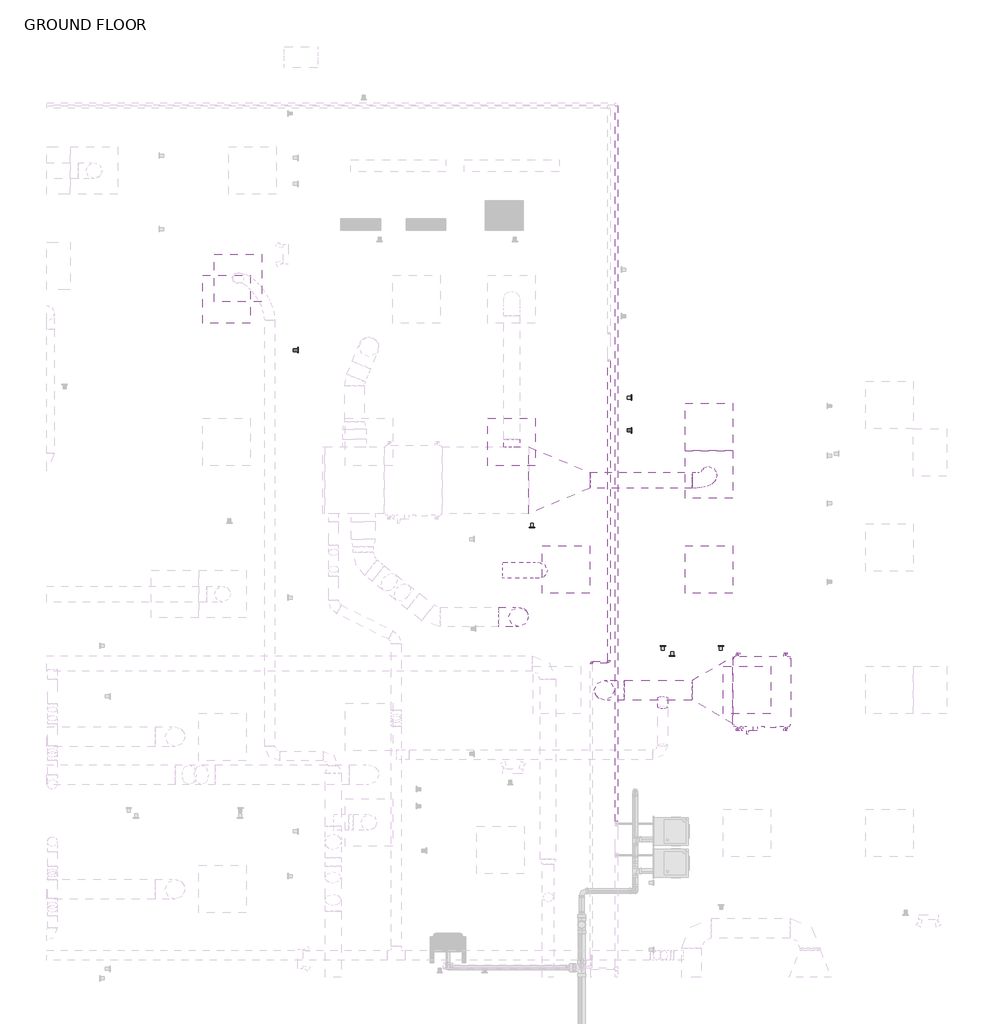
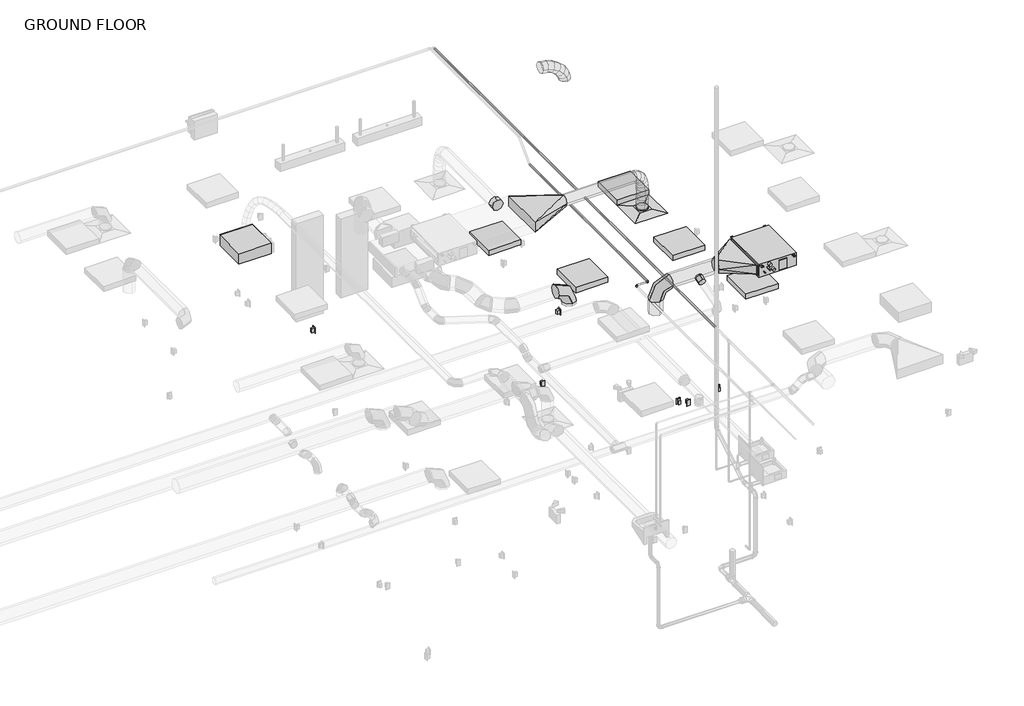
# One storey, part 20 of 22: 6 duct fittings, 6 duct segments, 6 light fixtures, 5 proxies, 3 pipe segments, 2 air terminals, 2 pipe fittings, 2 switching devices, 1 electric appliance.
"""IFC4 building model written with IfcOpenShell, lengths in millimetres."""

from ifc_helpers import new_model, si_unit, point, frame, frame_2d, origin, place, context, project, spatial, circle_curve, ellipse_curve, trimmed, segment, composite_curve, outline, extrude, transform, mapped, element, save
from ifc_brep_helpers import plane_surface, cylinder_surface, advanced_brep
from components import air_terminal_52af7c74, air_terminal_e9020785, mechanical_equipment_7e022f85, duplex_receptacle_countertop_10251bba, rectangular_to_round_transition_angle_45_degree_09297cf0, rectangular_to_round_transition_angle_60_degree_68074483, round_elbow_1_d_6fec3262, round_takeoff_standard_c8132586, round_takeoff_standard_1127d77f, telephone_outlet_data_plain_18c24199, troffer_corner_insert_2x2_3_lamp_emergency_29e3a813, troffer_corner_insert_2x2_3lamp_e67c7f8f, elbow_generic_standard_c06ac706

model = new_model("IFC4")

# Units and contexts
model_context = context("Model", 3, world=origin())
ifc_project = project(units=[si_unit("LENGTHUNIT", "METRE", prefix="MILLI")], contexts=[model_context])

# Site, building, storey
site = spatial("IfcSite", under=ifc_project)
building = spatial("IfcBuilding", under=site)
storey = spatial("IfcBuildingStorey", under=building, Name="GROUND FLOOR", Elevation=30480.0)

# Air terminals
placement = place(None, origin())
air_terminal_shape = air_terminal_52af7c74(model_context)
element("IfcAirTerminal", 1, ObjectType="Supply Diffuser - Rectangular Face Round Neck - Hosted : 24\"x24\" Face 6\" Neck - Hosted", at=placement, inside=storey, context=model_context, shape_type="MappedRepresentation", body=[
    mapped(air_terminal_shape, transform((8532.1795393, 5435.0070005, 33223.2), x_axis=(0.0, -1.0, 0.0), y_axis=(-1.0, 0.0, 0.0), z_axis=(0.0, 0.0, -1.0))),
])
air_terminal_2_shape = air_terminal_e9020785(model_context)
element("IfcAirTerminal", 2, ObjectType="Supply Diffuser - Rectangular Face Round Neck - Hosted : 24\"x24\" Face 8\" Neck - Hosted", at=placement, inside=storey, context=model_context, shape_type="MappedRepresentation", body=[
    mapped(air_terminal_2_shape, transform((14567.8545393, 2918.8195005, 33223.2), x_axis=(0.0, -1.0, 0.0), y_axis=(-1.0, 0.0, 0.0), z_axis=(0.0, 0.0, -1.0))),
])

# Proxies
mechanical_equipment_shape = mechanical_equipment_7e022f85(model_context)
element("IfcBuildingElementProxy", 3, Name="PEFY-P-NMAU-E_Medium_Static_Ducted : PEFY-P18NMAU-E", ObjectType="PEFY-P-NMAU-E_Medium_Static_Ducted : PEFY-P18NMAU-E", at=placement, inside=storey, context=model_context, shape_type="MappedRepresentation", body=[
    mapped(mechanical_equipment_shape, transform((15192.6616523, 124.3322576, 33686.75), x_axis=(0.0, -1.0, 0.0), y_axis=(1.0, 0.0, 0.0), z_axis=(0.0, 0.0, 1.0))),
])
duplex_receptacle_countertop_shape = duplex_receptacle_countertop_10251bba(model_context)
element("IfcBuildingElementProxy", 4, Name="Duplex Receptacle : Standard", ObjectType="Duplex Receptacle : Standard", at=placement, inside=storey, context=model_context, shape_type="MappedRepresentation", body=[
    mapped(duplex_receptacle_countertop_shape, transform((12301.5341357, 2239.3695005, 30937.2), x_axis=(1.0, 0.0, 0.0), y_axis=(0.0, 0.0, 1.0), z_axis=(0.0, -1.0, 0.0))),
])
element("IfcBuildingElementProxy", 5, Name="Duplex Receptacle : Standard", ObjectType="Duplex Receptacle : Standard", at=placement, inside=storey, context=model_context, shape_type="MappedRepresentation", body=[
    mapped(duplex_receptacle_countertop_shape, transform((14723.7149264, 715.3695005, 30937.2), x_axis=(-1.0, 0.0, 0.0), y_axis=(0.0, 0.0, 1.0), z_axis=(0.0, 1.0, 0.0))),
])
element("IfcBuildingElementProxy", 6, Name="Duplex Receptacle : Standard", ObjectType="Duplex Receptacle : Standard", at=placement, inside=storey, context=model_context, shape_type="MappedRepresentation", body=[
    mapped(duplex_receptacle_countertop_shape, transform((13574.0795393, 3902.2763697, 30937.2), x_axis=(0.0, 1.0, 0.0), y_axis=(0.0, 0.0, 1.0), z_axis=(1.0, 0.0, 0.0))),
])
element("IfcBuildingElementProxy", 7, Name="Duplex Receptacle : Standard", ObjectType="Duplex Receptacle : Standard", at=placement, inside=storey, context=model_context, shape_type="MappedRepresentation", body=[
    mapped(duplex_receptacle_countertop_shape, transform((14097.4622755, 591.5445005, 30937.2), x_axis=(1.0, 0.0, 0.0), y_axis=(0.0, 0.0, 1.0), z_axis=(0.0, -1.0, 0.0))),
])

# Duct fittings
rectangular_to_round_transition_angle_45_degree_shape = rectangular_to_round_transition_angle_45_degree_09297cf0(model_context)
element("IfcDuctFitting", 8, ObjectType="Rectangular to Round Transition - Angle : 45 Degree", at=placement, inside=storey, context=model_context, shape_type="MappedRepresentation", body=[
    mapped(rectangular_to_round_transition_angle_45_degree_shape, transform((12257.9936831, 2841.896647, 33978.85), x_axis=(1.0, 0.0, 0.0), y_axis=(0.0, 1.0, 0.0), z_axis=(0.0, 0.0, 1.0))),
])
rectangular_to_round_transition_angle_60_degree_shape = rectangular_to_round_transition_angle_60_degree_68074483(model_context)
element("IfcDuctFitting", 9, ObjectType="Rectangular to Round Transition - Angle : 60 Degree", at=placement, inside=storey, context=model_context, shape_type="MappedRepresentation", body=[
    mapped(rectangular_to_round_transition_angle_60_degree_shape, transform((14875.1616523, 151.8070005, 33846.29375), x_axis=(-1.0, 0.0, 0.0), y_axis=(0.0, -1.0, 0.0), z_axis=(0.0, 0.0, 1.0))),
])
round_elbow_1_d_shape = round_elbow_1_d_6fec3262(model_context)
element("IfcDuctFitting", 10, ObjectType="Round Elbow : 1 D", at=placement, inside=storey, context=model_context, shape_type="MappedRepresentation", body=[
    mapped(round_elbow_1_d_shape, transform((13229.5920393, 151.8070005, 33846.29375), x_axis=(0.0, 0.0, 1.0), y_axis=(1.0, 0.0, 0.0), z_axis=(0.0, 1.0, 0.0))),
])
element("IfcDuctFitting", 11, ObjectType="Round Elbow : 1 D", at=placement, inside=storey, context=model_context, shape_type="MappedRepresentation", body=[
    mapped(round_elbow_1_d_shape, transform((12129.4545393, 1090.0195005, 33629.6), x_axis=(0.0, 0.0, 1.0), y_axis=(-1.0, 0.0, 0.0), z_axis=(0.0, -1.0, 0.0))),
])
round_takeoff_standard_shape = round_takeoff_standard_c8132586(model_context)
element("IfcDuctFitting", 12, ObjectType="Round Takeoff : Standard", at=placement, inside=storey, context=model_context, shape_type="MappedRepresentation", body=[
    mapped(round_takeoff_standard_shape, transform((13976.8577502, 28.8487351, 33814.5090845), x_axis=(0.0, -0.9574860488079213, -0.28847957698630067), y_axis=(-1.0, 0.0, 0.0), z_axis=(0.0, 0.28847957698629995, -0.9574860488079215))),
])
round_takeoff_standard_2_shape = round_takeoff_standard_1127d77f(model_context)
element("IfcDuctFitting", 13, ObjectType="Round Takeoff : Standard", at=placement, inside=storey, context=model_context, shape_type="MappedRepresentation", body=[
    mapped(round_takeoff_standard_2_shape, transform((12040.5545393, 3269.727897, 33978.85), x_axis=(0.0, 1.0, 0.0), y_axis=(1.0, 0.0, 0.0), z_axis=(0.0, 0.0, -1.0))),
])

# Duct segments
element("IfcDuctSegment", 14, ObjectType="Flex - Round", at=placement, inside=storey, context=model_context, shape_type="AdvancedBrep", body=[
    advanced_brep(
    [(14669.4545393, 2918.8195005, 33277.175), (14567.8545393, 2817.2195005, 33277.175), (14466.2545393, 2918.8195005, 33277.175), (14567.8545393, 3020.4195005, 33277.175), (14669.4545393, 2918.8195005, 33279.8547075), (14567.8545393, 2817.2195005, 33278.7618832), (14466.2545393, 2918.8195005, 33280.7980181), (14567.8545393, 3020.4195005, 33281.8908423), (14670.2466059, 2916.1922176, 33365.1427836), (14568.616162, 2814.6931997, 33360.7718304), (14467.0530424, 2916.1708676, 33366.7791677), (14568.6834863, 3017.6698854, 33371.1501209), (14670.9315956, 2909.0188694, 33465.4647279), (14569.2677947, 2807.8691727, 33456.2083879), (14467.7182424, 2909.2047612, 33464.2027585), (14569.3820433, 3010.3544579, 33473.4590985), (14668.8447102, 2898.3986023, 33572.8340621), (14567.3020822, 2797.8655607, 33557.3434305), (14465.7826584, 2899.3544747, 33563.787703), (14567.3252863, 2999.8875163, 33579.2783346), (14661.1005042, 2885.461278, 33682.2201979), (14560.1562908, 2785.9279366, 33658.2770193), (14458.9994567, 2888.0225859, 33659.5997492), (14559.94367, 2987.5559274, 33683.5429279), (14644.2995966, 2871.2387095, 33789.4249914), (14545.2626132, 2773.3199064, 33753.3119824), (14445.6357391, 2876.7097216, 33744.8722008), (14544.6727225, 2974.6285247, 33780.9852098), (14613.5644873, 2856.5939705, 33891.2786024), (14520.0395911, 2761.30158, 33836.8989925), (14425.4367268, 2867.0852475, 33811.8100579), (14518.961623, 2962.377638, 33866.1896679), (14560.3234804, 2842.4095473, 33984.2272659), (14481.828247, 2751.1213466, 33903.6087256), (14401.8418364, 2860.7991171, 33853.0022452), (14480.3370698, 2952.0873178, 33933.6207855), (14477.0345462, 2831.492141, 34052.57981), (14427.8368128, 2744.0442188, 33947.9177556), (14377.2608184, 2857.5770689, 33873.1750944), (14426.4585518, 2945.024991, 33977.8371488), (14393.1398295, 2827.0688797, 34079.362175), (14377.3901647, 2741.384472, 33964.0222327), (14361.0887655, 2856.7244143, 33878.337825), (14376.8384304, 2942.4088219, 33993.6777673), (14355.1295393, 2827.0688797, 34079.362175), (14355.1295393, 2942.4088219, 33993.6777673), (14355.1295393, 2856.7244143, 33878.337825), (14355.1295393, 2741.384472, 33964.0222327)],
    [
        (0, 1, circle_curve(frame((14567.8545393, 2918.8195005, 33277.175), z_axis=(0.0, 0.0, -1.0), x_axis=(1.0, 0.0, 0.0)), 101.6)),
        (1, 2, circle_curve(frame((14567.8545393, 2918.8195005, 33277.175), z_axis=(0.0, 0.0, -1.0), x_axis=(1.0, 0.0, 0.0)), 101.6)),
        (2, 3, circle_curve(frame((14567.8545393, 2918.8195005, 33277.175), z_axis=(0.0, 0.0, -1.0), x_axis=(1.0, 0.0, 0.0)), 101.6)),
        (3, 0, circle_curve(frame((14567.8545393, 2918.8195005, 33277.175), z_axis=(0.0, 0.0, -1.0), x_axis=(1.0, 0.0, 0.0)), 101.6)),
        (0, 4),
        (4, 5, ellipse_curve(frame((14567.8545393, 2918.8195005, 33280.3263628), z_axis=(-0.004641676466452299, 0.015396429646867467, -0.9998706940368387), x_axis=(0.2886080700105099, -0.957312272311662, -0.016080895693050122)), 101.6131392, 101.6)),
        (5, 1),
        (5, 6, ellipse_curve(frame((14567.8545393, 2918.8195005, 33280.3263628), z_axis=(-0.004641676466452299, 0.015396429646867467, -0.9998706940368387), x_axis=(0.2886080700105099, -0.957312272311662, -0.016080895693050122)), 101.6131392, 101.6)),
        (6, 2),
        (6, 7, ellipse_curve(frame((14567.8545393, 2918.8195005, 33280.3263628), z_axis=(-0.004641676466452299, 0.015396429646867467, -0.9998706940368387), x_axis=(0.2886080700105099, -0.957312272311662, -0.016080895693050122)), 101.6131392, 101.6)),
        (7, 3),
        (7, 4, ellipse_curve(frame((14567.8545393, 2918.8195005, 33280.3263628), z_axis=(-0.004641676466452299, 0.015396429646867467, -0.9998706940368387), x_axis=(0.2886080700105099, -0.957312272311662, -0.016080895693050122)), 101.6131392, 101.6)),
        (4, 8),
        (8, 9, ellipse_curve(frame((14568.6498241, 2916.1815426, 33365.9609757), z_axis=(-0.008047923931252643, 0.051064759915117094, -0.9986629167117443), x_axis=(-0.06079481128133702, -0.996872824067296, -0.050483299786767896)), 101.6210003, 101.6)),
        (9, 5),
        (9, 10, ellipse_curve(frame((14568.6498241, 2916.1815426, 33365.9609757), z_axis=(-0.008047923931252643, 0.051064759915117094, -0.9986629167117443), x_axis=(-0.06079481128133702, -0.996872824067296, -0.050483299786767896)), 101.6210003, 101.6)),
        (10, 6),
        (10, 11, ellipse_curve(frame((14568.6498241, 2916.1815426, 33365.9609757), z_axis=(-0.008047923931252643, 0.051064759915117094, -0.9986629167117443), x_axis=(-0.06079481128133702, -0.996872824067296, -0.050483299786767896)), 101.6210003, 101.6)),
        (11, 7),
        (11, 8, ellipse_curve(frame((14568.6498241, 2916.1815426, 33365.9609757), z_axis=(-0.008047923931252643, 0.051064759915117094, -0.9986629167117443), x_axis=(-0.06079481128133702, -0.996872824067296, -0.050483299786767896)), 101.6210003, 101.6)),
        (8, 12),
        (12, 13, ellipse_curve(frame((14569.324919, 2909.1118153, 33464.8337432), z_axis=(0.006265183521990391, 0.08488220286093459, -0.9963712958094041), x_axis=(-0.6929382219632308, -0.718013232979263, -0.06552570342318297)), 101.6180899, 101.6)),
        (13, 9),
        (13, 14, ellipse_curve(frame((14569.324919, 2909.1118153, 33464.8337432), z_axis=(0.006265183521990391, 0.08488220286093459, -0.9963712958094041), x_axis=(-0.6929382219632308, -0.718013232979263, -0.06552570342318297)), 101.6180899, 101.6)),
        (14, 10),
        (14, 15, ellipse_curve(frame((14569.324919, 2909.1118153, 33464.8337432), z_axis=(0.006265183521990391, 0.08488220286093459, -0.9963712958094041), x_axis=(-0.6929382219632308, -0.718013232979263, -0.06552570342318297)), 101.6180899, 101.6)),
        (15, 11),
        (15, 12, ellipse_curve(frame((14569.324919, 2909.1118153, 33464.8337432), z_axis=(0.006265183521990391, 0.08488220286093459, -0.9963712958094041), x_axis=(-0.6929382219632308, -0.718013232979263, -0.06552570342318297)), 101.6180899, 101.6)),
        (12, 16),
        (16, 17, ellipse_curve(frame((14567.3136843, 2898.8765385, 33568.3108826), z_axis=(0.04475266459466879, 0.10782920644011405, -0.9931616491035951), x_axis=(-0.935152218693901, -0.34518349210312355, -0.07961585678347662)), 101.637491, 101.6)),
        (17, 13),
        (17, 18, ellipse_curve(frame((14567.3136843, 2898.8765385, 33568.3108826), z_axis=(0.04475266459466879, 0.10782920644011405, -0.9931616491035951), x_axis=(-0.935152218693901, -0.34518349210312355, -0.07961585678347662)), 101.637491, 101.6)),
        (18, 14),
        (18, 19, ellipse_curve(frame((14567.3136843, 2898.8765385, 33568.3108826), z_axis=(0.04475266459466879, 0.10782920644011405, -0.9931616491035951), x_axis=(-0.935152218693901, -0.34518349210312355, -0.07961585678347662)), 101.637491, 101.6)),
        (19, 15),
        (19, 16, ellipse_curve(frame((14567.3136843, 2898.8765385, 33568.3108826), z_axis=(0.04475266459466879, 0.10782920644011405, -0.9931616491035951), x_axis=(-0.935152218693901, -0.34518349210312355, -0.07961585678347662)), 101.637491, 101.6)),
        (16, 20),
        (20, 21, ellipse_curve(frame((14560.0499804, 2886.741932, 33670.9099736), z_axis=(0.11192577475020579, 0.12367206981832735, -0.9859907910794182), x_axis=(-0.9800340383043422, -0.15035030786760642, -0.13010791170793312)), 101.6920553, 101.6)),
        (21, 17),
        (21, 22, ellipse_curve(frame((14560.0499804, 2886.741932, 33670.9099736), z_axis=(0.11192577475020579, 0.12367206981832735, -0.9859907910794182), x_axis=(-0.9800340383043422, -0.15035030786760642, -0.13010791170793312)), 101.6920553, 101.6)),
        (22, 18),
        (22, 23, ellipse_curve(frame((14560.0499804, 2886.741932, 33670.9099736), z_axis=(0.11192577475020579, 0.12367206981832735, -0.9859907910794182), x_axis=(-0.9800340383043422, -0.15035030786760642, -0.13010791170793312)), 101.6920553, 101.6)),
        (23, 19),
        (23, 20, ellipse_curve(frame((14560.0499804, 2886.741932, 33670.9099736), z_axis=(0.11192577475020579, 0.12367206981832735, -0.9859907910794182), x_axis=(-0.9800340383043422, -0.15035030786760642, -0.13010791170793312)), 101.6920553, 101.6)),
        (20, 24),
        (24, 25, ellipse_curve(frame((14544.9676679, 2873.9742155, 33767.1485961), z_axis=(0.22036722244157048, 0.13347181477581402, -0.9662419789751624), x_axis=(-0.9724624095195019, -0.046980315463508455, -0.22827551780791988)), 101.8372313, 101.6)),
        (25, 21),
        (25, 26, ellipse_curve(frame((14544.9676679, 2873.9742155, 33767.1485961), z_axis=(0.22036722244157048, 0.13347181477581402, -0.9662419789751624), x_axis=(-0.9724624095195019, -0.046980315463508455, -0.22827551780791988)), 101.8372313, 101.6)),
        (26, 22),
        (26, 27, ellipse_curve(frame((14544.9676679, 2873.9742155, 33767.1485961), z_axis=(0.22036722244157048, 0.13347181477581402, -0.9662419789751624), x_axis=(-0.9724624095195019, -0.046980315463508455, -0.22827551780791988)), 101.8372313, 101.6)),
        (27, 23),
        (27, 24, ellipse_curve(frame((14544.9676679, 2873.9742155, 33767.1485961), z_axis=(0.22036722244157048, 0.13347181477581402, -0.9662419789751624), x_axis=(-0.9724624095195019, -0.046980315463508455, -0.22827551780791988)), 101.8372313, 101.6)),
        (24, 28),
        (28, 29, ellipse_curve(frame((14519.500607, 2861.839609, 33851.5443302), z_axis=(0.39194385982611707, 0.13467205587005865, -0.9100788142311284), x_axis=(-0.9194238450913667, 0.022666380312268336, -0.3926143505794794)), 102.2470263, 101.6)),
        (29, 25),
        (29, 30, ellipse_curve(frame((14519.500607, 2861.839609, 33851.5443302), z_axis=(0.39194385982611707, 0.13467205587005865, -0.9100788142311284), x_axis=(-0.9194238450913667, 0.022666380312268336, -0.3926143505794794)), 102.2470263, 101.6)),
        (30, 26),
        (30, 31, ellipse_curve(frame((14519.500607, 2861.839609, 33851.5443302), z_axis=(0.39194385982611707, 0.13467205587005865, -0.9100788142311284), x_axis=(-0.9194238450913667, 0.022666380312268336, -0.3926143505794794)), 102.2470263, 101.6)),
        (31, 27),
        (31, 28, ellipse_curve(frame((14519.500607, 2861.839609, 33851.5443302), z_axis=(0.39194385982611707, 0.13467205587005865, -0.9100788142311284), x_axis=(-0.9194238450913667, 0.022666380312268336, -0.3926143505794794)), 102.2470263, 101.6)),
        (28, 32),
        (32, 33, ellipse_curve(frame((14481.0826584, 2851.6043322, 33918.6147556), z_axis=(0.6413951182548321, 0.11797107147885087, -0.7580864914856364), x_axis=(-0.7671332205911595, 0.08456983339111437, -0.635888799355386)), 103.289209, 101.6)),
        (33, 29),
        (33, 34, ellipse_curve(frame((14481.0826584, 2851.6043322, 33918.6147556), z_axis=(0.6413951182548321, 0.11797107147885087, -0.7580864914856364), x_axis=(-0.7671332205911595, 0.08456983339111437, -0.635888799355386)), 103.289209, 101.6)),
        (34, 30),
        (34, 35, ellipse_curve(frame((14481.0826584, 2851.6043322, 33918.6147556), z_axis=(0.6413951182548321, 0.11797107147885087, -0.7580864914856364), x_axis=(-0.7671332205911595, 0.08456983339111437, -0.635888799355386)), 103.289209, 101.6)),
        (35, 31),
        (35, 32, ellipse_curve(frame((14481.0826584, 2851.6043322, 33918.6147556), z_axis=(0.6413951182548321, 0.11797107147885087, -0.7580864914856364), x_axis=(-0.7671332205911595, 0.08456983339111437, -0.635888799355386)), 103.289209, 101.6)),
        (32, 36),
        (36, 37, ellipse_curve(frame((14427.1476823, 2844.5346049, 33962.8774522), z_axis=(0.8760609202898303, 0.07687337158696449, -0.47603334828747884), x_axis=(-0.48219228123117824, 0.13391841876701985, -0.8657692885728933)), 103.4666283, 101.6)),
        (37, 33),
        (37, 38, ellipse_curve(frame((14427.1476823, 2844.5346049, 33962.8774522), z_axis=(0.8760609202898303, 0.07687337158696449, -0.47603334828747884), x_axis=(-0.48219228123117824, 0.13391841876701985, -0.8657692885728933)), 103.4666283, 101.6)),
        (38, 34),
        (38, 39, ellipse_curve(frame((14427.1476823, 2844.5346049, 33962.8774522), z_axis=(0.8760609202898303, 0.07687337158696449, -0.47603334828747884), x_axis=(-0.48219228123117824, 0.13391841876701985, -0.8657692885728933)), 103.4666283, 101.6)),
        (39, 35),
        (39, 36, ellipse_curve(frame((14427.1476823, 2844.5346049, 33962.8774522), z_axis=(0.8760609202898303, 0.07687337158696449, -0.47603334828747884), x_axis=(-0.48219228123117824, 0.13391841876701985, -0.8657692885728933)), 103.4666283, 101.6)),
        (36, 40),
        (40, 41, ellipse_curve(frame((14377.1142975, 2841.896647, 33978.85), z_axis=(0.9877842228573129, 0.025391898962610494, -0.15374518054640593), x_axis=(-0.1558278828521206, 0.160957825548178, -0.9745820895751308)), 102.8564717, 101.6)),
        (41, 37),
        (41, 42, ellipse_curve(frame((14377.1142975, 2841.896647, 33978.85), z_axis=(0.9877842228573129, 0.025391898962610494, -0.15374518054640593), x_axis=(-0.1558278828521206, 0.160957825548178, -0.9745820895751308)), 102.8564717, 101.6)),
        (42, 38),
        (42, 43, ellipse_curve(frame((14377.1142975, 2841.896647, 33978.85), z_axis=(0.9877842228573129, 0.025391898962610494, -0.15374518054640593), x_axis=(-0.1558278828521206, 0.160957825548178, -0.9745820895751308)), 102.8564717, 101.6)),
        (43, 39),
        (43, 40, ellipse_curve(frame((14377.1142975, 2841.896647, 33978.85), z_axis=(0.9877842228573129, 0.025391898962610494, -0.15374518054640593), x_axis=(-0.1558278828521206, 0.160957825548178, -0.9745820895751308)), 102.8564717, 101.6)),
        (44, 45, circle_curve(frame((14355.1295393, 2841.896647, 33978.85), z_axis=(-1.0, 0.0, 0.0), x_axis=(0.0, -0.1459425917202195, 0.9892930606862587)), 101.6)),
        (45, 46, circle_curve(frame((14355.1295393, 2841.896647, 33978.85), z_axis=(-1.0, 0.0, 0.0), x_axis=(0.0, -0.1459425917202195, 0.9892930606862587)), 101.6)),
        (46, 47, circle_curve(frame((14355.1295393, 2841.896647, 33978.85), z_axis=(-1.0, 0.0, 0.0), x_axis=(0.0, -0.1459425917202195, 0.9892930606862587)), 101.6)),
        (47, 44, circle_curve(frame((14355.1295393, 2841.896647, 33978.85), z_axis=(-1.0, 0.0, 0.0), x_axis=(0.0, -0.1459425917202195, 0.9892930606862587)), 101.6)),
        (40, 44),
        (47, 41),
        (46, 42),
        (45, 43),
    ],
    [
        plane_surface(frame((14567.8545393, 2817.2195005, 33277.175), z_axis=(0.0, 0.0, -1.0), x_axis=(1.0, 0.0, 0.0))),
        cylinder_surface(frame((14567.8545393, 2918.8195005, 33277.175), z_axis=(0.0, 0.0, -1.0), x_axis=(1.0, 0.0, 0.0)), 101.6),
        cylinder_surface(frame((14567.8545393, 2918.8195005, 33280.3263628), z_axis=(-0.009282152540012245, 0.030788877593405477, -0.9994828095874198), x_axis=(0.9999569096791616, 0.00014293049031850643, -0.009282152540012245)), 101.6),
        cylinder_surface(frame((14568.6498241, 2916.1815426, 33365.9609757), z_axis=(-0.006810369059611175, 0.07131953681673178, -0.9974302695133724), x_axis=(0.9999766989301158, 1.7366014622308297e-05, -0.006826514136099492)), 101.6),
        cylinder_surface(frame((14569.324919, 2909.1118153, 33464.8337432), z_axis=(0.019338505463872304, 0.0984146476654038, -0.9949575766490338), x_axis=(0.9998129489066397, -0.0022011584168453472, 0.01921515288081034)), 101.6),
        cylinder_surface(frame((14567.3136843, 2898.8765385, 33568.3108826), z_axis=(0.07013380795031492, 0.1171642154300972, -0.9906330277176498), x_axis=(0.9975374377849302, -0.007683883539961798, 0.06971383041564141)), 101.6),
        cylinder_surface(frame((14560.0499804, 2886.741932, 33670.9099736), z_axis=(0.15351510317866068, 0.129956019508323, -0.9795634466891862), x_axis=(0.9881440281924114, -0.018063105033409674, 0.1524634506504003)), 101.6),
        cylinder_surface(frame((14544.9676679, 2873.9742155, 33767.1485961), z_axis=(0.2861926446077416, 0.1363657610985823, -0.9484187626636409), x_axis=(0.9581621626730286, -0.036222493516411, 0.2839246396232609)), 101.6),
        cylinder_surface(frame((14519.500607, 2861.839609, 33851.5443302), z_axis=(0.4927345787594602, 0.1312739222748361, -0.8602207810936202), x_axis=(0.8701520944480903, -0.06646278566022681, 0.48828068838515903)), 101.6),
        cylinder_surface(frame((14481.0826584, 2851.6043322, 33918.6147556), z_axis=(0.7690766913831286, 0.10080958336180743, -0.631156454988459), x_axis=(0.6391066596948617, -0.10895870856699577, 0.7613610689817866)), 101.6),
        cylinder_surface(frame((14427.1476823, 2844.5346049, 33962.8774522), z_axis=(0.9514353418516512, 0.050163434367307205, -0.3037341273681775), x_axis=(0.3078030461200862, -0.1380302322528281, 0.9413845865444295)), 101.6),
        plane_surface(frame((14355.1295393, 2841.896647, 33877.25), z_axis=(-1.0, 0.0, 0.0), x_axis=(0.0, -1.0, 0.0))),
        cylinder_surface(frame((14377.1142975, 2841.896647, 33978.85), z_axis=(1.0000000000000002, 0.0, 0.0), x_axis=(0.0, -0.1459425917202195, 0.9892930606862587)), 101.6),
    ],
    [
        (0, [[1, 2, 3, 4]]),
        (1, [[-1, 5, 6, 7]]),
        (1, [[-2, -7, 8, 9]]),
        (1, [[-3, -9, 10, 11]]),
        (1, [[-4, -11, 12, -5]]),
        (2, [[-6, 13, 14, 15]]),
        (2, [[-8, -15, 16, 17]]),
        (2, [[-10, -17, 18, 19]]),
        (2, [[-12, -19, 20, -13]]),
        (3, [[-14, 21, 22, 23]]),
        (3, [[-16, -23, 24, 25]]),
        (3, [[-18, -25, 26, 27]]),
        (3, [[-20, -27, 28, -21]]),
        (4, [[-22, 29, 30, 31]]),
        (4, [[-24, -31, 32, 33]]),
        (4, [[-26, -33, 34, 35]]),
        (4, [[-28, -35, 36, -29]]),
        (5, [[-30, 37, 38, 39]]),
        (5, [[-32, -39, 40, 41]]),
        (5, [[-34, -41, 42, 43]]),
        (5, [[-36, -43, 44, -37]]),
        (6, [[-38, 45, 46, 47]]),
        (6, [[-40, -47, 48, 49]]),
        (6, [[-42, -49, 50, 51]]),
        (6, [[-44, -51, 52, -45]]),
        (7, [[-46, 53, 54, 55]]),
        (7, [[-48, -55, 56, 57]]),
        (7, [[-50, -57, 58, 59]]),
        (7, [[-52, -59, 60, -53]]),
        (8, [[-54, 61, 62, 63]]),
        (8, [[-56, -63, 64, 65]]),
        (8, [[-58, -65, 66, 67]]),
        (8, [[-60, -67, 68, -61]]),
        (9, [[-62, 69, 70, 71]]),
        (9, [[-64, -71, 72, 73]]),
        (9, [[-66, -73, 74, 75]]),
        (9, [[-68, -75, 76, -69]]),
        (10, [[-70, 77, 78, 79]]),
        (10, [[-72, -79, 80, 81]]),
        (10, [[-74, -81, 82, 83]]),
        (10, [[-76, -83, 84, -77]]),
        (11, [[85, 86, 87, 88]]),
        (12, [[-78, 89, -88, 90]]),
        (12, [[-80, -90, -87, 91]]),
        (12, [[-82, -91, -86, 92]]),
        (12, [[-84, -92, -85, -89]]),
    ],
),
])
element("IfcDuctSegment", 15, ObjectType="Flex - Round", at=placement, inside=storey, context=model_context, shape_type="AdvancedBrep", body=[
    advanced_brep(
    [(11929.4295393, 1788.5195005, 37712.65), (11929.4295393, 1686.9195005, 37611.05), (11929.4295393, 1585.3195005, 37712.65), (11929.4295393, 1686.9195005, 37814.25), (11942.8770973, 1788.5195005, 37712.65), (11935.1214914, 1686.9195005, 37611.05), (11942.8770973, 1585.3195005, 37712.65), (11950.6327032, 1686.9195005, 37814.25), (12392.9795393, 1788.5195005, 37341.175), (12494.5795393, 1686.9195005, 37341.175), (12392.9795393, 1585.3195005, 37341.175), (12291.3795393, 1686.9195005, 37341.175), (12032.5201106, 1788.5195005, 37698.8840402), (12007.0675218, 1686.9195005, 37600.0016636), (12032.5201106, 1585.3195005, 37698.8840402), (12057.9726995, 1686.9195005, 37797.7664167), (12137.6136928, 1788.5195005, 37660.3439286), (12093.4253019, 1686.9195005, 37568.3323798), (12137.6136928, 1585.3195005, 37660.3439286), (12181.8020838, 1686.9195005, 37752.3554774), (12235.4583563, 1788.5195005, 37601.166317), (12173.9191675, 1686.9195005, 37519.6487364), (12235.4583563, 1585.3195005, 37601.166317), (12296.9975452, 1686.9195005, 37682.6838977), (12316.8021716, 1788.5195005, 37525.4878572), (12237.9377792, 1686.9195005, 37460.0888311), (12316.8021716, 1585.3195005, 37525.4878572), (12395.666564, 1686.9195005, 37590.8868834), (12372.3932091, 1788.5195005, 37437.445201), (12278.4147005, 1686.9195005, 37395.9832517), (12372.3932091, 1585.3195005, 37437.445201), (12466.3717177, 1686.9195005, 37478.9071503), (12392.9795393, 1788.5195005, 37362.4207258), (12291.3795393, 1686.9195005, 37348.7344116), (12392.9795393, 1585.3195005, 37362.4207258), (12494.5795393, 1686.9195005, 37376.10704)],
    [
        (0, 1, circle_curve(frame((11929.4295393, 1686.9195005, 37712.65), z_axis=(-1.0, 0.0, 0.0), x_axis=(0.0, 1.0, 0.0)), 101.6)),
        (1, 2, circle_curve(frame((11929.4295393, 1686.9195005, 37712.65), z_axis=(-1.0, 0.0, 0.0), x_axis=(0.0, 1.0, 0.0)), 101.6)),
        (2, 3, circle_curve(frame((11929.4295393, 1686.9195005, 37712.65), z_axis=(-1.0, 0.0, 0.0), x_axis=(0.0, 1.0, 0.0)), 101.6)),
        (3, 0, circle_curve(frame((11929.4295393, 1686.9195005, 37712.65), z_axis=(-1.0, 0.0, 0.0), x_axis=(0.0, 1.0, 0.0)), 101.6)),
        (0, 4),
        (4, 5, ellipse_curve(frame((11942.8770973, 1686.9195005, 37712.65), z_axis=(-0.9970991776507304, 0.0, 0.07611327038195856), x_axis=(-0.07611327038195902, 0.0, -0.9970991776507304)), 101.895581, 101.6)),
        (5, 1),
        (5, 6, ellipse_curve(frame((11942.8770973, 1686.9195005, 37712.65), z_axis=(-0.9970991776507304, 0.0, 0.07611327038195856), x_axis=(-0.07611327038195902, 0.0, -0.9970991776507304)), 101.895581, 101.6)),
        (6, 2),
        (6, 7, ellipse_curve(frame((11942.8770973, 1686.9195005, 37712.65), z_axis=(-0.9970991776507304, 0.0, 0.07611327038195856), x_axis=(-0.07611327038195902, 0.0, -0.9970991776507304)), 101.895581, 101.6)),
        (7, 3),
        (7, 4, ellipse_curve(frame((11942.8770973, 1686.9195005, 37712.65), z_axis=(-0.9970991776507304, 0.0, 0.07611327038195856), x_axis=(-0.07611327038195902, 0.0, -0.9970991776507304)), 101.895581, 101.6)),
        (8, 9, circle_curve(frame((12392.9795393, 1686.9195005, 37341.175), z_axis=(0.0, 0.0, -1.0), x_axis=(0.0, 1.0, 0.0)), 101.6)),
        (9, 10, circle_curve(frame((12392.9795393, 1686.9195005, 37341.175), z_axis=(0.0, 0.0, -1.0), x_axis=(0.0, 1.0, 0.0)), 101.6)),
        (10, 11, circle_curve(frame((12392.9795393, 1686.9195005, 37341.175), z_axis=(0.0, 0.0, -1.0), x_axis=(0.0, 1.0, 0.0)), 101.6)),
        (11, 8, circle_curve(frame((12392.9795393, 1686.9195005, 37341.175), z_axis=(0.0, 0.0, -1.0), x_axis=(0.0, 1.0, 0.0)), 101.6)),
        (4, 12),
        (12, 13, ellipse_curve(frame((12032.5201106, 1686.9195005, 37698.8840402), z_axis=(-0.9684322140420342, 0.0, 0.24927704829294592), x_axis=(-0.2492770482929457, 0.0, -0.9684322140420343)), 102.1056251, 101.6)),
        (13, 5),
        (13, 14, ellipse_curve(frame((12032.5201106, 1686.9195005, 37698.8840402), z_axis=(-0.9684322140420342, 0.0, 0.24927704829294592), x_axis=(-0.2492770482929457, 0.0, -0.9684322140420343)), 102.1056251, 101.6)),
        (14, 6),
        (14, 15, ellipse_curve(frame((12032.5201106, 1686.9195005, 37698.8840402), z_axis=(-0.9684322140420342, 0.0, 0.24927704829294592), x_axis=(-0.2492770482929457, 0.0, -0.9684322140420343)), 102.1056251, 101.6)),
        (15, 7),
        (15, 12, ellipse_curve(frame((12032.5201106, 1686.9195005, 37698.8840402), z_axis=(-0.9684322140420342, 0.0, 0.24927704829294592), x_axis=(-0.2492770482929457, 0.0, -0.9684322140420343)), 102.1056251, 101.6)),
        (12, 16),
        (16, 17, ellipse_curve(frame((12137.6136928, 1686.9195005, 37660.3439286), z_axis=(-0.9014357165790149, 0.0, 0.4329129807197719), x_axis=(-0.43291298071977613, 0.0, -0.9014357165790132)), 102.0722244, 101.6)),
        (17, 13),
        (17, 18, ellipse_curve(frame((12137.6136928, 1686.9195005, 37660.3439286), z_axis=(-0.9014357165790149, 0.0, 0.4329129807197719), x_axis=(-0.43291298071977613, 0.0, -0.9014357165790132)), 102.0722244, 101.6)),
        (18, 14),
        (18, 19, ellipse_curve(frame((12137.6136928, 1686.9195005, 37660.3439286), z_axis=(-0.9014357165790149, 0.0, 0.4329129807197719), x_axis=(-0.43291298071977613, 0.0, -0.9014357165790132)), 102.0722244, 101.6)),
        (19, 15),
        (19, 16, ellipse_curve(frame((12137.6136928, 1686.9195005, 37660.3439286), z_axis=(-0.9014357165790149, 0.0, 0.4329129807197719), x_axis=(-0.43291298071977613, 0.0, -0.9014357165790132)), 102.0722244, 101.6)),
        (16, 20),
        (20, 21, ellipse_curve(frame((12235.4583563, 1686.9195005, 37601.166317), z_axis=(-0.7981115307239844, 0.0, 0.6025097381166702), x_axis=(-0.6025097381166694, 0.0, -0.798111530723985)), 102.1380816, 101.6)),
        (21, 17),
        (21, 22, ellipse_curve(frame((12235.4583563, 1686.9195005, 37601.166317), z_axis=(-0.7981115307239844, 0.0, 0.6025097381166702), x_axis=(-0.6025097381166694, 0.0, -0.798111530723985)), 102.1380816, 101.6)),
        (22, 18),
        (22, 23, ellipse_curve(frame((12235.4583563, 1686.9195005, 37601.166317), z_axis=(-0.7981115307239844, 0.0, 0.6025097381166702), x_axis=(-0.6025097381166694, 0.0, -0.798111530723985)), 102.1380816, 101.6)),
        (23, 19),
        (23, 20, ellipse_curve(frame((12235.4583563, 1686.9195005, 37601.166317), z_axis=(-0.7981115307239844, 0.0, 0.6025097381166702), x_axis=(-0.6025097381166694, 0.0, -0.798111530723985)), 102.1380816, 101.6)),
        (20, 24),
        (24, 25, ellipse_curve(frame((12316.8021716, 1686.9195005, 37525.4878572), z_axis=(-0.638331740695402, 0.0, 0.7697613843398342), x_axis=(-0.769761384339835, 0.0, -0.6383317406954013)), 102.4530381, 101.6)),
        (25, 21),
        (25, 26, ellipse_curve(frame((12316.8021716, 1686.9195005, 37525.4878572), z_axis=(-0.638331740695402, 0.0, 0.7697613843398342), x_axis=(-0.769761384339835, 0.0, -0.6383317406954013)), 102.4530381, 101.6)),
        (26, 22),
        (26, 27, ellipse_curve(frame((12316.8021716, 1686.9195005, 37525.4878572), z_axis=(-0.638331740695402, 0.0, 0.7697613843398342), x_axis=(-0.769761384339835, 0.0, -0.6383317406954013)), 102.4530381, 101.6)),
        (27, 23),
        (27, 24, ellipse_curve(frame((12316.8021716, 1686.9195005, 37525.4878572), z_axis=(-0.638331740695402, 0.0, 0.7697613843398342), x_axis=(-0.769761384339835, 0.0, -0.6383317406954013)), 102.4530381, 101.6)),
        (24, 28),
        (28, 29, ellipse_curve(frame((12372.3932091, 1686.9195005, 37437.445201), z_axis=(-0.40364707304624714, 0.0, 0.9149147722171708), x_axis=(-0.9149147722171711, 0.0, -0.40364707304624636)), 102.7183202, 101.6)),
        (29, 25),
        (29, 30, ellipse_curve(frame((12372.3932091, 1686.9195005, 37437.445201), z_axis=(-0.40364707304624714, 0.0, 0.9149147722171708), x_axis=(-0.9149147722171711, 0.0, -0.40364707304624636)), 102.7183202, 101.6)),
        (30, 26),
        (30, 31, ellipse_curve(frame((12372.3932091, 1686.9195005, 37437.445201), z_axis=(-0.40364707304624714, 0.0, 0.9149147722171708), x_axis=(-0.9149147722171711, 0.0, -0.40364707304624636)), 102.7183202, 101.6)),
        (31, 27),
        (31, 28, ellipse_curve(frame((12372.3932091, 1686.9195005, 37437.445201), z_axis=(-0.40364707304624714, 0.0, 0.9149147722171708), x_axis=(-0.9149147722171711, 0.0, -0.40364707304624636)), 102.7183202, 101.6)),
        (28, 32),
        (32, 33, ellipse_curve(frame((12392.9795393, 1686.9195005, 37362.4207258), z_axis=(-0.1335019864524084, 0.0, 0.9910485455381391), x_axis=(-0.9910485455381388, 0.0, -0.13350198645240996)), 102.5176824, 101.6)),
        (33, 29),
        (33, 34, ellipse_curve(frame((12392.9795393, 1686.9195005, 37362.4207258), z_axis=(-0.1335019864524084, 0.0, 0.9910485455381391), x_axis=(-0.9910485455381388, 0.0, -0.13350198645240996)), 102.5176824, 101.6)),
        (34, 30),
        (34, 35, ellipse_curve(frame((12392.9795393, 1686.9195005, 37362.4207258), z_axis=(-0.1335019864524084, 0.0, 0.9910485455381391), x_axis=(-0.9910485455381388, 0.0, -0.13350198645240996)), 102.5176824, 101.6)),
        (35, 31),
        (35, 32, ellipse_curve(frame((12392.9795393, 1686.9195005, 37362.4207258), z_axis=(-0.1335019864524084, 0.0, 0.9910485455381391), x_axis=(-0.9910485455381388, 0.0, -0.13350198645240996)), 102.5176824, 101.6)),
        (32, 8),
        (11, 33),
        (10, 34),
        (9, 35),
    ],
    [
        plane_surface(frame((11929.4295393, 1686.9195005, 37611.05), z_axis=(-1.0, 0.0, 0.0), x_axis=(0.0, 1.0, 0.0))),
        cylinder_surface(frame((11929.4295393, 1686.9195005, 37712.65), z_axis=(-1.0, 0.0, 0.0), x_axis=(0.0, 1.0, 0.0)), 101.6),
        plane_surface(frame((12392.9795393, 1585.3195005, 37341.175), z_axis=(0.0, 0.0, -1.0), x_axis=(-1.0, 0.0, 0.0))),
        cylinder_surface(frame((11942.8770973, 1686.9195005, 37712.65), z_axis=(-0.9884135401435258, 0.0, 0.15178495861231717), x_axis=(0.0, 1.0, 0.0)), 101.6),
        cylinder_surface(frame((12032.5201106, 1686.9195005, 37698.8840402), z_axis=(-0.9388595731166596, 0.0, 0.3443003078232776), x_axis=(0.0, 1.0, 0.0)), 101.6),
        cylinder_surface(frame((12137.6136928, 1686.9195005, 37660.3439286), z_axis=(-0.8556710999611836, 0.0, 0.5175200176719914), x_axis=(0.0, 1.0, 0.0)), 101.6),
        cylinder_surface(frame((12235.4583563, 1686.9195005, 37601.166317), z_axis=(-0.7321427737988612, 0.0, 0.6811512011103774), x_axis=(0.0, 1.0, 0.0)), 101.6),
        cylinder_surface(frame((12316.8021716, 1686.9195005, 37525.4878572), z_axis=(-0.5338910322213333, 0.0, 0.8455532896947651), x_axis=(0.0, 1.0, 0.0)), 101.6),
        cylinder_surface(frame((12372.3932091, 1686.9195005, 37437.445201), z_axis=(-0.2646138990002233, 0.0, 0.9643544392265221), x_axis=(0.0, 1.0, 0.0)), 101.6),
        cylinder_surface(frame((12392.9795393, 1686.9195005, 37362.4207258), z_axis=(0.0, 0.0, 1.0), x_axis=(0.0, 1.0, 0.0)), 101.6),
    ],
    [
        (0, [[1, 2, 3, 4]]),
        (1, [[-1, 5, 6, 7]]),
        (1, [[-2, -7, 8, 9]]),
        (1, [[-3, -9, 10, 11]]),
        (1, [[-4, -11, 12, -5]]),
        (2, [[13, 14, 15, 16]]),
        (3, [[-6, 17, 18, 19]]),
        (3, [[-8, -19, 20, 21]]),
        (3, [[-10, -21, 22, 23]]),
        (3, [[-12, -23, 24, -17]]),
        (4, [[-18, 25, 26, 27]]),
        (4, [[-20, -27, 28, 29]]),
        (4, [[-22, -29, 30, 31]]),
        (4, [[-24, -31, 32, -25]]),
        (5, [[-26, 33, 34, 35]]),
        (5, [[-28, -35, 36, 37]]),
        (5, [[-30, -37, 38, 39]]),
        (5, [[-32, -39, 40, -33]]),
        (6, [[-34, 41, 42, 43]]),
        (6, [[-36, -43, 44, 45]]),
        (6, [[-38, -45, 46, 47]]),
        (6, [[-40, -47, 48, -41]]),
        (7, [[-42, 49, 50, 51]]),
        (7, [[-44, -51, 52, 53]]),
        (7, [[-46, -53, 54, 55]]),
        (7, [[-48, -55, 56, -49]]),
        (8, [[-50, 57, 58, 59]]),
        (8, [[-52, -59, 60, 61]]),
        (8, [[-54, -61, 62, 63]]),
        (8, [[-56, -63, 64, -57]]),
        (9, [[-58, 65, -16, 66]]),
        (9, [[-60, -66, -15, 67]]),
        (9, [[-62, -67, -14, 68]]),
        (9, [[-64, -68, -13, -65]]),
    ],
),
])
element("IfcDuctSegment", 16, ObjectType="Taps / Short Radius", at=placement, inside=storey, context=model_context, shape_type="SweptSolid", body=[
    extrude(outline(composite_curve([segment(trimmed(circle_curve(frame_2d((151.8070005, 33846.29375)), 127.0), [point((24.8070005, 33846.29375))], [point((151.8070005, 33973.29375))], False, "CARTESIAN"), True, "CONTINUOUS"), segment(trimmed(circle_curve(frame_2d((151.8070005, 33846.29375)), 127.0), [point((151.8070005, 33973.29375))], [point((278.8070005, 33846.29375))], False, "CARTESIAN"), True, "CONTINUOUS"), segment(trimmed(circle_curve(frame_2d((151.8070005, 33846.29375)), 127.0), [point((278.8070005, 33846.29375))], [point((151.8070005, 33719.29375))], False, "CARTESIAN"), True, "CONTINUOUS"), segment(trimmed(circle_curve(frame_2d((151.8070005, 33846.29375)), 127.0), [point((151.8070005, 33719.29375))], [point((24.8070005, 33846.29375))], False, "CARTESIAN"), True, "CONTINUOUS")], self_intersect=False)), frame((13483.5920393, 0.0, 0.0), z_axis=(1.0, 0.0, 0.0), x_axis=(0.0, 1.0, 0.0)), (0.0, 0.0, 1.0), 870.5146035),
])
element("IfcDuctSegment", 17, ObjectType="Taps / Short Radius", at=placement, inside=storey, context=model_context, shape_type="SweptSolid", body=[
    extrude(outline(composite_curve([segment(trimmed(circle_curve(frame_2d((13229.5920393, 151.8070005)), 127.0), [point((13229.5920393, 24.8070005))], [point((13102.5920393, 151.8070005))], False, "CARTESIAN"), True, "CONTINUOUS"), segment(trimmed(circle_curve(frame_2d((13229.5920393, 151.8070005)), 127.0), [point((13102.5920393, 151.8070005))], [point((13229.5920393, 278.8070005))], False, "CARTESIAN"), True, "CONTINUOUS"), segment(trimmed(circle_curve(frame_2d((13229.5920393, 151.8070005)), 127.0), [point((13229.5920393, 278.8070005))], [point((13356.5920393, 151.8070005))], False, "CARTESIAN"), True, "CONTINUOUS"), segment(trimmed(circle_curve(frame_2d((13229.5920393, 151.8070005)), 127.0), [point((13356.5920393, 151.8070005))], [point((13229.5920393, 24.8070005))], False, "CARTESIAN"), True, "CONTINUOUS")], self_intersect=False)), frame((0.0, 0.0, 33324.8), z_axis=(0.0, 0.0, 1.0), x_axis=(1.0, 0.0, 0.0)), (0.0, 0.0, 1.0), 267.49375),
])
element("IfcDuctSegment", 18, ObjectType="Taps / Short Radius", at=placement, inside=storey, context=model_context, shape_type="SweptSolid", body=[
    extrude(outline(composite_curve([segment(trimmed(circle_curve(frame_2d((2841.896647, 33978.85)), 101.6), [point((2943.496647, 33978.85))], [point((2841.896647, 33877.25))], False, "CARTESIAN"), True, "CONTINUOUS"), segment(trimmed(circle_curve(frame_2d((2841.896647, 33978.85)), 101.6), [point((2841.896647, 33877.25))], [point((2740.296647, 33978.85))], False, "CARTESIAN"), True, "CONTINUOUS"), segment(trimmed(circle_curve(frame_2d((2841.896647, 33978.85)), 101.6), [point((2740.296647, 33978.85))], [point((2841.896647, 34080.45))], False, "CARTESIAN"), True, "CONTINUOUS"), segment(trimmed(circle_curve(frame_2d((2841.896647, 33978.85)), 101.6), [point((2841.896647, 34080.45))], [point((2943.496647, 33978.85))], False, "CARTESIAN"), True, "CONTINUOUS")], self_intersect=False)), frame((13045.5855914, 0.0, 0.0), z_axis=(1.0, 0.0, 0.0), x_axis=(0.0, 1.0, 0.0)), (0.0, 0.0, 1.0), 1309.5439479),
])
element("IfcDuctSegment", 19, ObjectType="Taps / Short Radius", at=placement, inside=storey, context=model_context, shape_type="SweptSolid", body=[
    extrude(outline(composite_curve([segment(trimmed(circle_curve(frame_2d((12129.4545393, 1090.0195005)), 127.0), [point((12129.4545393, 1217.0195005))], [point((12256.4545393, 1090.0195005))], False, "CARTESIAN"), True, "CONTINUOUS"), segment(trimmed(circle_curve(frame_2d((12129.4545393, 1090.0195005)), 127.0), [point((12256.4545393, 1090.0195005))], [point((12129.4545393, 963.0195005))], False, "CARTESIAN"), True, "CONTINUOUS"), segment(trimmed(circle_curve(frame_2d((12129.4545393, 1090.0195005)), 127.0), [point((12129.4545393, 963.0195005))], [point((12002.4545393, 1090.0195005))], False, "CARTESIAN"), True, "CONTINUOUS"), segment(trimmed(circle_curve(frame_2d((12129.4545393, 1090.0195005)), 127.0), [point((12002.4545393, 1090.0195005))], [point((12129.4545393, 1217.0195005))], False, "CARTESIAN"), True, "CONTINUOUS")], self_intersect=False)), frame((0.0, 0.0, 33324.8), z_axis=(0.0, 0.0, 1.0), x_axis=(1.0, 0.0, 0.0)), (0.0, 0.0, 1.0), 50.8),
])

# Electric appliance
telephone_outlet_data_plain_shape = telephone_outlet_data_plain_18c24199(model_context)
element("IfcElectricAppliance", 20, ObjectType="Telephone Outlet - Data : Plain", at=placement, inside=storey, context=model_context, shape_type="MappedRepresentation", body=[
    mapped(telephone_outlet_data_plain_shape, transform((13098.5923085, 715.3695005, 30079.95), x_axis=(-1.0, 0.0, 0.0), y_axis=(0.0, 0.0, 1.0), z_axis=(0.0, 1.0, 0.0))),
])

# Light fixtures
troffer_corner_insert_2x2_3_lamp_emergency_shape = troffer_corner_insert_2x2_3_lamp_emergency_29e3a813(model_context)
element("IfcLightFixture", 21, ObjectType="Troffer Corner Insert : 2x2 3 Lamp Emergency", at=placement, inside=storey, context=model_context, shape_type="MappedRepresentation", body=[
    mapped(troffer_corner_insert_2x2_3_lamp_emergency_shape, transform((8382.9545393, 5163.5445005, 30784.8), x_axis=(1.0, 0.0, 0.0), y_axis=(0.0, 1.0, 0.0), z_axis=(0.0, 0.0, 1.0))),
])
troffer_corner_insert_2x2_3lamp_shape = troffer_corner_insert_2x2_3lamp_e67c7f8f(model_context)
element("IfcLightFixture", 22, ObjectType="Troffer Corner Insert : 2x2 3Lamp", at=placement, inside=storey, context=model_context, shape_type="MappedRepresentation", body=[
    mapped(troffer_corner_insert_2x2_3lamp_shape, transform((12040.5545393, 3334.7445005, 30784.8), x_axis=(1.0, 0.0, 0.0), y_axis=(0.0, 1.0, 0.0), z_axis=(0.0, 0.0, 1.0))),
])
element("IfcLightFixture", 23, ObjectType="Troffer Corner Insert : 2x2 3Lamp", at=placement, inside=storey, context=model_context, shape_type="MappedRepresentation", body=[
    mapped(troffer_corner_insert_2x2_3lamp_shape, transform((12739.0545393, 1699.6195005, 30784.8), x_axis=(1.0, 0.0, 0.0), y_axis=(0.0, 1.0, 0.0), z_axis=(0.0, 0.0, 1.0))),
])
element("IfcLightFixture", 24, ObjectType="Troffer Corner Insert : 2x2 3Lamp", at=placement, inside=storey, context=model_context, shape_type="MappedRepresentation", body=[
    mapped(troffer_corner_insert_2x2_3lamp_shape, transform((14567.8545393, 1699.6195005, 30784.8), x_axis=(1.0, 0.0, 0.0), y_axis=(0.0, 1.0, 0.0), z_axis=(0.0, 0.0, 1.0))),
])
element("IfcLightFixture", 25, ObjectType="Troffer Corner Insert : 2x2 3Lamp", at=placement, inside=storey, context=model_context, shape_type="MappedRepresentation", body=[
    mapped(troffer_corner_insert_2x2_3lamp_shape, transform((14567.8545393, 3528.4195005, 30784.8), x_axis=(1.0, 0.0, 0.0), y_axis=(0.0, 1.0, 0.0), z_axis=(0.0, 0.0, 1.0))),
])
element("IfcLightFixture", 26, ObjectType="Troffer Corner Insert : 2x2 3Lamp", at=placement, inside=storey, context=model_context, shape_type="MappedRepresentation", body=[
    mapped(troffer_corner_insert_2x2_3lamp_shape, transform((15058.3920393, 151.8070005, 30784.8), x_axis=(1.0, 0.0, 0.0), y_axis=(0.0, 1.0, 0.0), z_axis=(0.0, 0.0, 1.0))),
])

# Pipe fittings
elbow_generic_standard_shape = elbow_generic_standard_c06ac706(model_context)
element("IfcPipeFitting", 27, ObjectType="Elbow - Generic : Standard", at=placement, inside=storey, context=model_context, shape_type="MappedRepresentation", body=[
    mapped(elbow_generic_standard_shape, transform((13289.5512041, 509.8310166, 33680.4), x_axis=(1.0, 0.0, 0.0), y_axis=(0.0, 1.0, 0.0), z_axis=(0.0, 0.0, 1.0))),
])
element("IfcPipeFitting", 28, ObjectType="Elbow - Generic : Standard", at=placement, inside=storey, context=model_context, shape_type="MappedRepresentation", body=[
    mapped(elbow_generic_standard_shape, transform((13060.9512041, 509.8310166, 33680.4), x_axis=(-1.0, 0.0, 0.0), y_axis=(0.0, -1.0, 0.0), z_axis=(0.0, 0.0, 1.0))),
])

# Pipe segments
element("IfcPipeSegment", 29, ObjectType="Copper Tubing", at=placement, inside=storey, context=model_context, shape_type="SweptSolid", body=[
    extrude(outline(composite_curve([segment(trimmed(circle_curve(frame_2d((33978.2831664, 13383.5569177)), 14.2875), [point((33978.2831664, 13369.2694177))], [point((33963.9956664, 13383.5569177))], False, "CARTESIAN"), True, "CONTINUOUS"), segment(trimmed(circle_curve(frame_2d((33978.2831664, 13383.5569177)), 14.2875), [point((33963.9956664, 13383.5569177))], [point((33978.2831664, 13397.8444177))], False, "CARTESIAN"), True, "CONTINUOUS"), segment(trimmed(circle_curve(frame_2d((33978.2831664, 13383.5569177)), 14.2875), [point((33978.2831664, 13397.8444177))], [point((33992.5706664, 13383.5569177))], False, "CARTESIAN"), True, "CONTINUOUS"), segment(trimmed(circle_curve(frame_2d((33978.2831664, 13383.5569177)), 14.2875), [point((33992.5706664, 13383.5569177))], [point((33978.2831664, 13369.2694177))], False, "CARTESIAN"), True, "CONTINUOUS")], self_intersect=False)), frame((0.0, -1530.3627033, 0.0), z_axis=(0.0, 1.0, 0.0), x_axis=(0.0, 0.0, 1.0)), (0.0, 0.0, 1.0), 9174.7845551),
])
element("IfcPipeSegment", 30, ObjectType="Copper Tubing", at=placement, inside=storey, context=model_context, shape_type="SweptSolid", body=[
    extrude(outline(composite_curve([segment(trimmed(circle_curve(frame_2d((33680.4, 13289.5512041)), 14.2875), [point((33680.4, 13275.2637041))], [point((33666.1125, 13289.5512041))], False, "CARTESIAN"), True, "CONTINUOUS"), segment(trimmed(circle_curve(frame_2d((33680.4, 13289.5512041)), 14.2875), [point((33666.1125, 13289.5512041))], [point((33680.4, 13303.8387041))], False, "CARTESIAN"), True, "CONTINUOUS"), segment(trimmed(circle_curve(frame_2d((33680.4, 13289.5512041)), 14.2875), [point((33680.4, 13303.8387041))], [point((33694.6875, 13289.5512041))], False, "CARTESIAN"), True, "CONTINUOUS"), segment(trimmed(circle_curve(frame_2d((33680.4, 13289.5512041)), 14.2875), [point((33694.6875, 13289.5512041))], [point((33680.4, 13275.2637041))], False, "CARTESIAN"), True, "CONTINUOUS")], self_intersect=False)), frame((0.0, 530.4685166, 0.0), z_axis=(0.0, 1.0, 0.0), x_axis=(0.0, 0.0, 1.0)), (0.0, 0.0, 1.0), 3844.3141676),
])
element("IfcPipeSegment", 31, ObjectType="Copper Tubing", at=placement, inside=storey, context=model_context, shape_type="SweptSolid", body=[
    extrude(outline(composite_curve([segment(trimmed(circle_curve(frame_2d((509.8310166, 33680.4)), 14.2875), [point((524.1185166, 33680.4))], [point((509.8310166, 33666.1125))], False, "CARTESIAN"), True, "CONTINUOUS"), segment(trimmed(circle_curve(frame_2d((509.8310166, 33680.4)), 14.2875), [point((509.8310166, 33666.1125))], [point((495.5435166, 33680.4))], False, "CARTESIAN"), True, "CONTINUOUS"), segment(trimmed(circle_curve(frame_2d((509.8310166, 33680.4)), 14.2875), [point((495.5435166, 33680.4))], [point((509.8310166, 33694.6875))], False, "CARTESIAN"), True, "CONTINUOUS"), segment(trimmed(circle_curve(frame_2d((509.8310166, 33680.4)), 14.2875), [point((509.8310166, 33694.6875))], [point((524.1185166, 33680.4))], False, "CARTESIAN"), True, "CONTINUOUS")], self_intersect=False)), frame((13081.5887041, 0.0, 0.0), z_axis=(1.0, 0.0, 0.0), x_axis=(0.0, 1.0, 0.0)), (0.0, 0.0, 1.0), 187.325),
])

# Switching devices
element("IfcSwitchingDevice", 32, ObjectType="Lighting Switches : Single Pole", at=placement, inside=storey, context=model_context, shape_type="MappedRepresentation", body=[
    mapped(duplex_receptacle_countertop_shape, transform((9297.3545393, 4512.720767, 31699.2), x_axis=(0.0, 1.0, 0.0), y_axis=(0.0, 0.0, 1.0), z_axis=(1.0, 0.0, 0.0))),
])
element("IfcSwitchingDevice", 33, ObjectType="Lighting Switches : Single Pole", at=placement, inside=storey, context=model_context, shape_type="MappedRepresentation", body=[
    mapped(duplex_receptacle_countertop_shape, transform((13574.0795393, 3483.3054859, 31699.2), x_axis=(0.0, 1.0, 0.0), y_axis=(0.0, 0.0, 1.0), z_axis=(1.0, 0.0, 0.0))),
])

save(model, "model.ifc")
